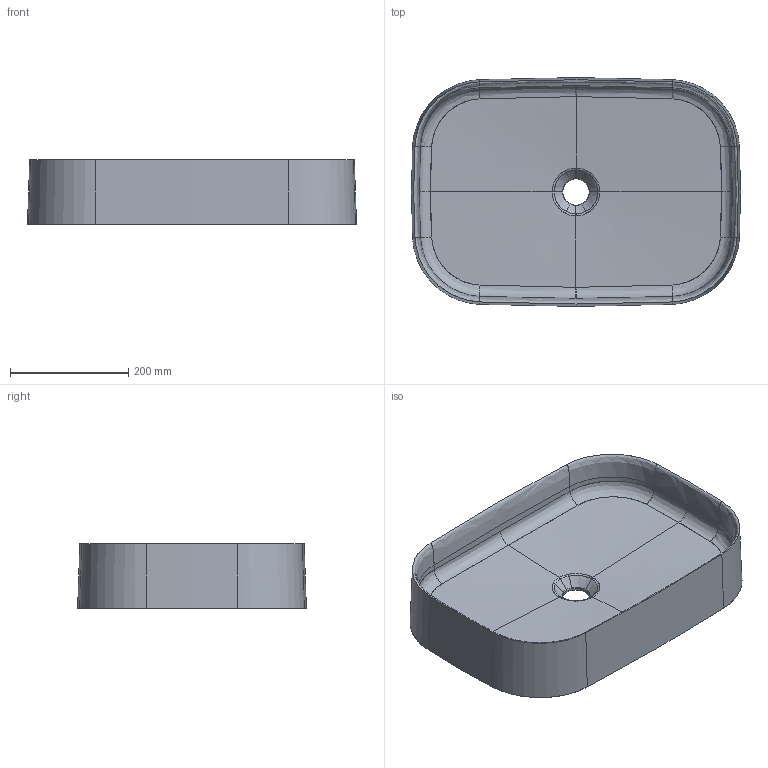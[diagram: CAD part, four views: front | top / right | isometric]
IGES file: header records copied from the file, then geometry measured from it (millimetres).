
Start section: START RECORD GO HERE.
Global section: file name: ART 7402 55x38.igs; native system: DASSAULT SYSTEMES CATIA V5 R19 - www.3ds.com; preprocessor: CATIA Version 5 Release 19 SP 5 ; author: Luca; organization: DESKTOP-V7SON24; date: 20171016.205309; units: millimetre
Bounding box: 557.68 x 387.68 x 110 mm (x, y, z)
Surface area: 704204.3 mm2 (no closed solid volume)
Topology: 0 solids, 0 shells, 154 faces, 680 edges, 680 vertices
Faces by surface type: bspline 115, revolution 33, plane 6
